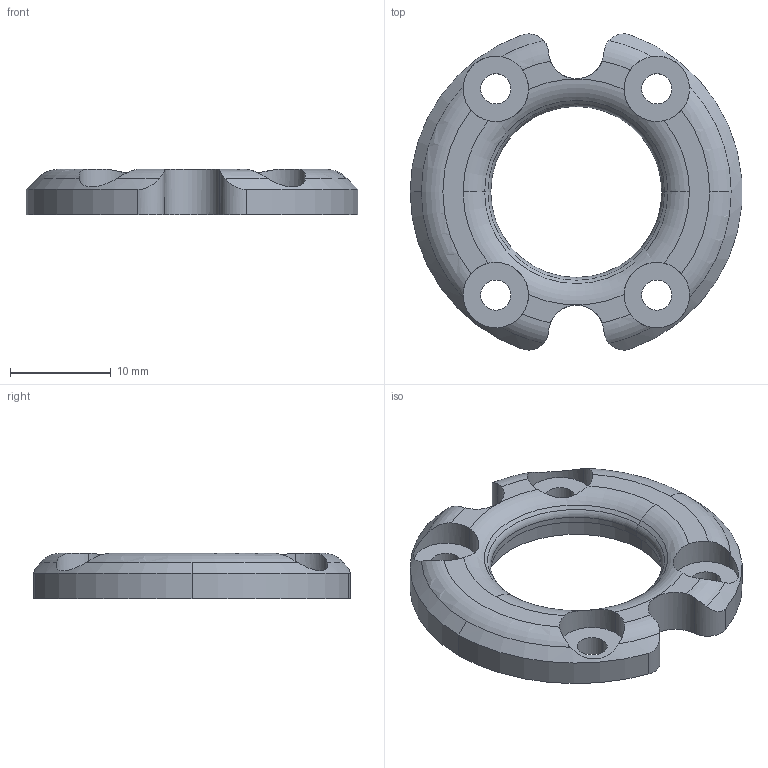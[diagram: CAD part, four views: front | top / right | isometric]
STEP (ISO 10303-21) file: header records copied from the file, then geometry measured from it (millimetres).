
FILE_DESCRIPTION (( 'STEP AP214' ), '1' );
FILE_NAME ('Ì44_ÏÌ_ÏÊÏ_Êðûøêà ïîäøèïíèêà.STEP', '2019-03-21T14:26:22', ( '' ), ( '' ), 'SwSTEP 2.0', 'SolidWorks 2018', '' );
FILE_SCHEMA (( 'AUTOMOTIVE_DESIGN' ));
Length unit declared in the file: millimetre
Products named in the file (1): Ì44_ÏÌ_ÏÊÏ_Êðûøêà ïîäøèïíèêà
Bounding box: 32.94 x 31.41 x 4.5 mm (x, y, z)
Volume: 1878.1 mm3; surface area: 1881.8 mm2
Topology: 1 solids, 1 shells, 57 faces, 156 edges, 101 vertices
Faces by surface type: cylinder 29, torus 13, plane 10, cone 5
Entity records: 2144 total; most frequent: CARTESIAN_POINT 619, DIRECTION 332, ORIENTED_EDGE 312, EDGE_CURVE 156, AXIS2_PLACEMENT_3D 150, VERTEX_POINT 101, CIRCLE 92, EDGE_LOOP 67
